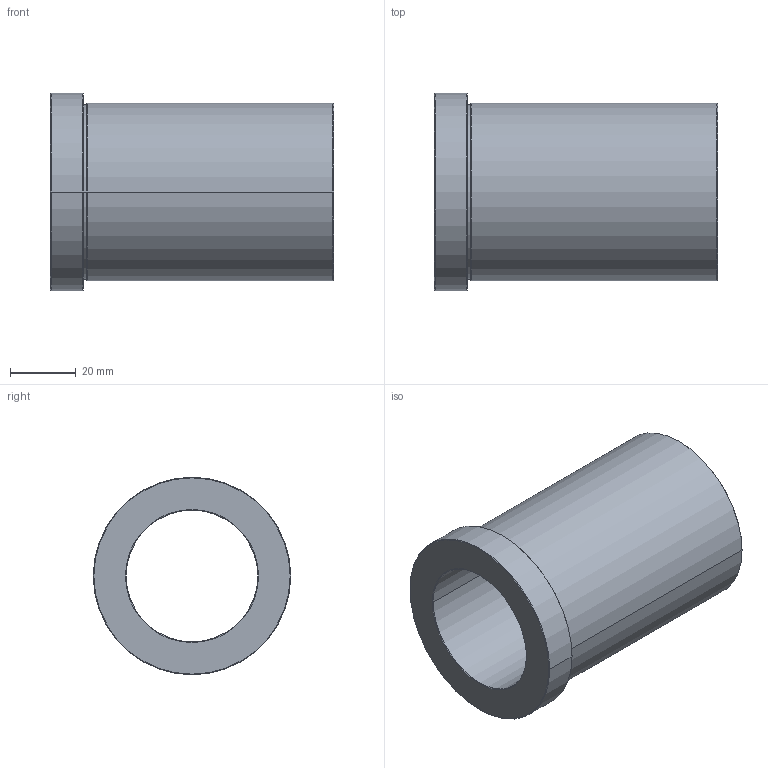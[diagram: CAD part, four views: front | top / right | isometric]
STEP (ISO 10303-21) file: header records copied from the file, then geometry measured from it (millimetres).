
FILE_DESCRIPTION (( 'STEP AP214' ), '1' );
FILE_NAME ('R03_086x40.STEP', '2015-03-05T14:48:11', ( 'TGL' ), ( '' ), 'SwSTEP 2.0', 'SolidWorks 2011', '' );
FILE_SCHEMA (( 'AUTOMOTIVE_DESIGN' ));
Length unit declared in the file: millimetre
Products named in the file (1): R03_086x40
Bounding box: 86 x 60 x 60 mm (x, y, z)
Volume: 93222.7 mm3; surface area: 28499.2 mm2
Topology: 1 solids, 1 shells, 24 faces, 48 edges, 28 vertices
Faces by surface type: cone 10, cylinder 8, plane 4, torus 2
Entity records: 730 total; most frequent: DIRECTION 128, CARTESIAN_POINT 101, ORIENTED_EDGE 96, AXIS2_PLACEMENT_3D 55, EDGE_CURVE 48, CIRCLE 30, EDGE_LOOP 28, VERTEX_POINT 28
